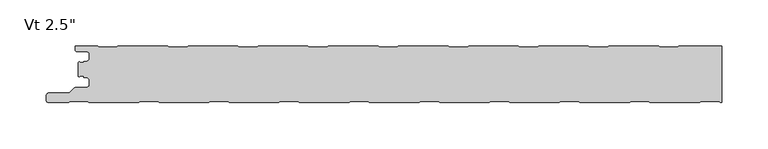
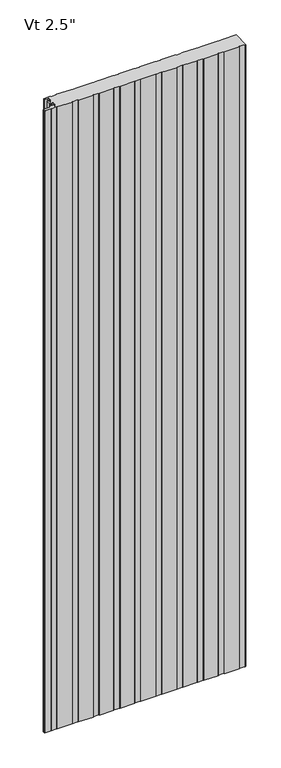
"""IFC4 building model written with IfcOpenShell, lengths in millimetres: plate geometry."""

from ifc_helpers import new_model, si_unit, point, frame_2d, origin, origin_with_axes, place, context, project, spatial, polyline, circle_curve, trimmed, segment, composite_curve, outline, extrude, source, transform, mapped, element, save


def plate_f7949c93(model_context):
    return source(origin(), model_context, "Body", "SweptSolid", [
        extrude(outline(composite_curve([segment(polyline([(-347.9683, -35.1760203), (-348.9999998, -34.1443205), (-348.9999998, -19.0328351), (-347.9686882, -18.0015235)]), True, "CONTINUOUS"), segment(trimmed(circle_curve(frame_2d((-346.968691, -18.0015175)), 0.9999972), [point((-347.9686882, -18.0015235))], [point((-346.968691, -19.0015147))], True, "CARTESIAN"), True, "CONTINUOUS"), segment(polyline([(-346.968691, -19.0015147), (-342.9684873, -19.0015147), (-342.9684873, -18.0015202), (-340.2762775, -18.0015202)]), True, "CONTINUOUS"), segment(trimmed(circle_curve(frame_2d((-340.2762775, -14.7015245)), 3.2999957), [point((-340.2762775, -18.0015202))], [point((-336.9762818, -14.7015245))], True, "CARTESIAN"), True, "CONTINUOUS"), segment(polyline([(-336.9762818, -14.7015245), (-336.9762818, -10.3015333)]), True, "CONTINUOUS"), segment(trimmed(circle_curve(frame_2d((-340.2762777, -10.3015333)), 3.2999959), [point((-336.9762818, -10.3015333))], [point((-340.2762777, -7.0015374))], True, "CARTESIAN"), True, "CONTINUOUS"), segment(polyline([(-340.2762777, -7.0015374), (-350.6962562, -7.0015374)]), True, "CONTINUOUS"), segment(trimmed(circle_curve(frame_2d((-350.6962562, -5.2315432)), 1.7699942), [point((-350.6962562, -7.0015374))], [point((-352.4662504, -5.2315432))], False, "CARTESIAN"), True, "CONTINUOUS"), segment(polyline([(-352.4662504, -5.2315432), (-352.4662504, -0.9999959), (-327.9659738, -0.9999959), (-326.5803312, -2.200235), (-307.2051649, -2.200235), (-305.8195319, -1.0000043), (-251.7661165, -1.0000043), (-250.3804836, -2.200235), (-231.0053173, -2.200235), (-229.6196843, -1.0000043), (-175.5662689, -1.0000043), (-174.180636, -2.200235), (-154.8054697, -2.200235), (-153.4198367, -1.0000043), (-99.3664213, -1.0000043), (-97.9807884, -2.200235), (-78.6056221, -2.200235), (-77.2199891, -1.0000043), (-23.1665737, -1.0000043), (-21.7809408, -2.200235), (-2.4057745, -2.200235), (-1.0201415, -1.0000043), (53.0332739, -1.0000043), (54.4189068, -2.200235), (73.7940731, -2.200235), (75.1797061, -1.0000043), (129.2331215, -1.0000043), (130.6187544, -2.200235), (149.9939207, -2.200235), (151.3795537, -1.0000043), (205.4329691, -1.0000043), (206.818602, -2.200235), (226.1937683, -2.200235), (227.5794013, -1.0000043), (281.6328167, -1.0000043), (283.0184496, -2.200235), (302.3936159, -2.200235), (303.7792489, -1.0000043), (350.4999998, -1.0000043), (350.4999998, -62.5051454), (348.445708, -62.5051454), (347.2403362, -61.2997736), (327.5209237, -61.2997736), (326.320693, -62.5000043), (272.2405612, -62.5000043), (271.0403305, -61.2997736), (251.320918, -61.2997736), (250.1206873, -62.5000043), (196.0405555, -62.5000043), (194.8403248, -61.2997736), (175.1209123, -61.2997736), (173.9206816, -62.5000043), (119.8405499, -62.5000043), (118.6403192, -61.2997736), (98.9209066, -61.2997736), (97.7206759, -62.5000043), (43.6405442, -62.5000043), (42.4403135, -61.2997736), (22.720901, -61.2997736), (21.5206703, -62.5000043), (-32.5594615, -62.5000043), (-33.7596922, -61.2997736), (-53.4791047, -61.2997736), (-54.6793354, -62.5000043), (-108.7594672, -62.5000043), (-109.9596979, -61.2997736), (-129.6791104, -61.2997736), (-130.8793411, -62.5000043), (-184.9594729, -62.5000043), (-186.1597036, -61.2997736), (-205.8791161, -61.2997736), (-207.0793468, -62.5000043), (-261.1594786, -62.5000043), (-262.3597093, -61.2997736), (-282.0791218, -61.2997736), (-283.2793525, -62.5000043), (-337.3594843, -62.5000043), (-338.559715, -61.2997736), (-358.2791275, -61.2997736), (-359.479096, -62.4997421), (-381.4521175, -62.4997421)]), True, "CONTINUOUS"), segment(trimmed(circle_curve(frame_2d((-381.4521175, -59.9295028)), 2.5702393), [point((-381.4521175, -62.4997421))], [point((-384.0125697, -59.7054172))], False, "CARTESIAN"), True, "CONTINUOUS"), segment(polyline([(-384.0125697, -59.7054172), (-383.5765707, -54.7235963)]), True, "CONTINUOUS"), segment(trimmed(circle_curve(frame_2d((-380.9198391, -55.2049869)), 2.6999926), [point((-383.5765707, -54.7235963))], [point((-380.9198391, -52.5049943))], False, "CARTESIAN"), True, "CONTINUOUS"), segment(polyline([(-380.9198391, -52.5049943), (-358.8247094, -52.5049943), (-353.3226383, -47.0029232)]), True, "CONTINUOUS"), segment(trimmed(circle_curve(frame_2d((-352.1205606, -48.2050009)), 1.6999946), [point((-353.3226383, -47.0029232))], [point((-352.1205606, -46.5050063))], False, "CARTESIAN"), True, "CONTINUOUS"), segment(polyline([(-352.1205606, -46.5050063), (-340.3096715, -46.5050063)]), True, "CONTINUOUS"), segment(trimmed(circle_curve(frame_2d((-340.3096715, -43.155011)), 3.3499953), [point((-340.3096715, -46.5050063))], [point((-336.9596762, -43.155011))], True, "CARTESIAN"), True, "CONTINUOUS"), segment(polyline([(-336.9596762, -43.155011), (-336.9596762, -38.7550198)]), True, "CONTINUOUS"), segment(trimmed(circle_curve(frame_2d((-340.3096715, -38.7550198)), 3.3499953), [point((-336.9596762, -38.7550198))], [point((-340.3096715, -35.4050245))], True, "CARTESIAN"), True, "CONTINUOUS"), segment(polyline([(-340.3096715, -35.4050245), (-343.0087826, -35.4050245), (-343.0087826, -34.0065456), (-346.767176, -34.0065456)]), True, "CONTINUOUS"), segment(trimmed(circle_curve(frame_2d((-346.7686906, -35.2065423)), 1.1999976), [point((-346.767176, -34.0065456))], [point((-347.9683, -35.1760203))], True, "CARTESIAN"), True, "CONTINUOUS")], self_intersect=False)), origin_with_axes(), (0.0, 0.0, 1.0), 2400.0),
    ])


if __name__ == "__main__":
    model = new_model("IFC4")
    model_context = context("Model", 3, world=origin())
    ifc_project = project(units=[si_unit("LENGTHUNIT", "METRE", prefix="MILLI")], contexts=[model_context])
    site = spatial("IfcSite", under=ifc_project)
    building = spatial("IfcBuilding", under=site)
    placement = place(None, origin())
    plate_shape = plate_f7949c93(model_context)
    element("IfcPlate", 1, ObjectType="KIP-30-Karrier-KP-R19-CP-Vt-SL_SL : Vt 2.5\"", at=placement, inside=building, context=model_context, shape_type="MappedRepresentation", body=[
        mapped(plate_shape, transform((0.0, 0.0, 0.0), x_axis=(1.0, 0.0, 0.0), y_axis=(0.0, 1.0, 0.0), z_axis=(0.0, 0.0, 1.0))),
    ])
    save(model, "model.ifc")
